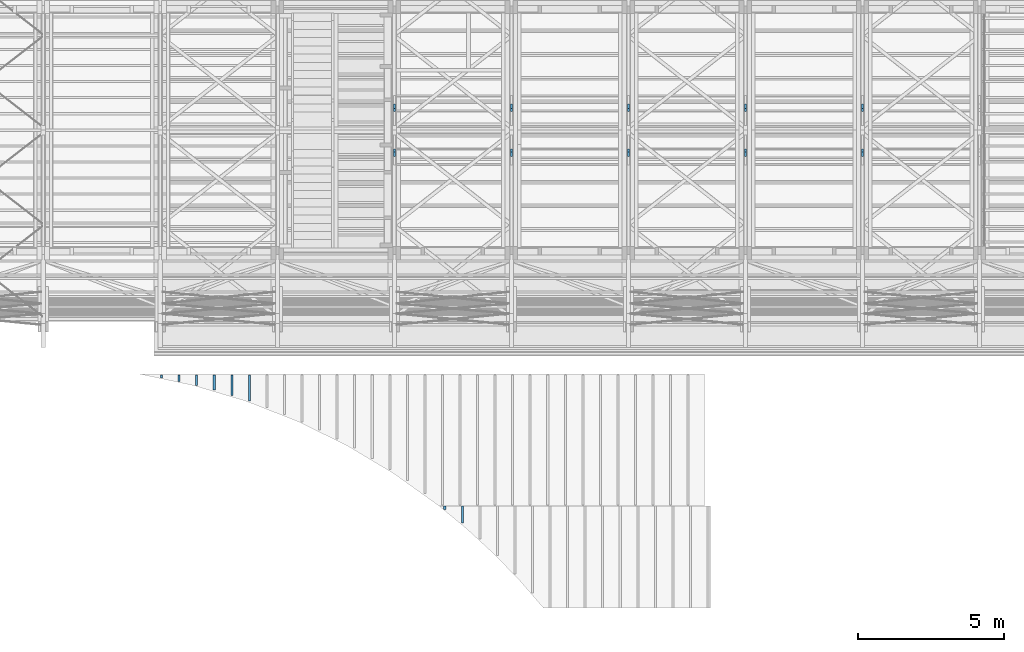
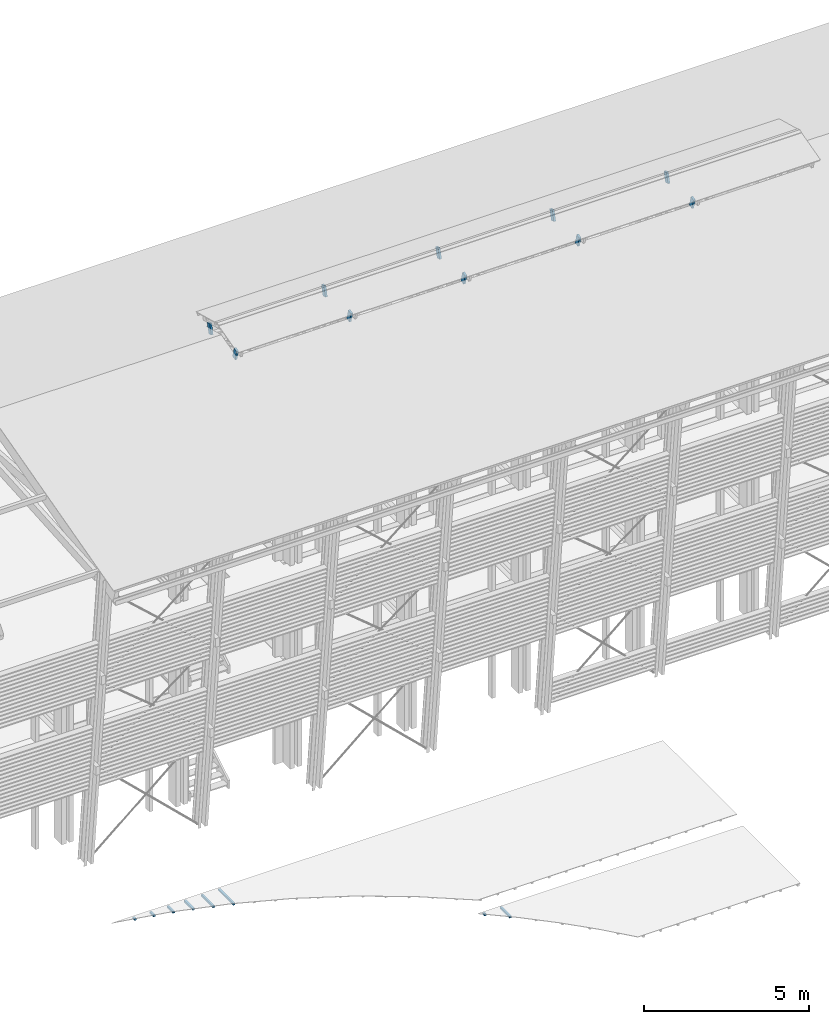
# One storey, part 29 of 48: 18 beams.
"""IFC2X3 building model written with IfcOpenShell, lengths in metres."""

from ifc_helpers import new_model, si_unit, direction, frame, origin_with_axes, place, context, subcontext, project, spatial, faceted_brep, material, element, save


model = new_model("IFC2X3")

# Units and contexts
model_context = context("Model", 3, precision=1e-06, world=origin_with_axes(), true_north=direction((0.0, 1.0, 0.0)))
body_context = subcontext(model_context, "Body", "Model", "MODEL_VIEW")
ifc_project = project(units=[si_unit("LENGTHUNIT", "METRE"), si_unit("AREAUNIT", "SQUARE_METRE"), si_unit("VOLUMEUNIT", "CUBIC_METRE"), si_unit("PLANEANGLEUNIT", "RADIAN")], contexts=[model_context])

# Site, building, storey
site_placement = place(None, origin_with_axes())
site = spatial("IfcSite", under=ifc_project, at=site_placement, CompositionType="ELEMENT")
building_placement = place(site_placement, origin_with_axes())
building = spatial("IfcBuilding", under=site, at=building_placement, Name="Building 1", CompositionType="ELEMENT")
storey_placement = place(building_placement, origin_with_axes())
storey = spatial("IfcBuildingStorey", under=building, at=storey_placement, Name="Storey 1", CompositionType="ELEMENT", Elevation=0.0)

# Beams
ifc_material = material(Name="GL28h")
beam_1_placement = place(storey_placement, frame((53.4897437, -188.4867808, 13.2181055), z_axis=(0.0, -0.9659258, 0.2588191), x_axis=(0.0, 0.2588191, 0.9659258)))
element("IfcBeam", 1, at=beam_1_placement, inside=storey, material=ifc_material, Name="potelet", context=body_context, shape_type="Brep", body=[
    faceted_brep([(0.38, -0.035, 0.084), (0.38, 0.035, 0.084), (0.0, 0.035, 0.084), (0.0, -0.035, 0.084), (0.38, 0.035, -0.084), (0.0, 0.035, -0.084), (0.38, -0.035, -0.084), (0.0, -0.035, -0.084)], [[[0, 1, 2, 3]], [[1, 4, 5, 2]], [[4, 6, 7, 5]], [[6, 0, 3, 7]], [[1, 0, 6, 4]], [[7, 3, 2, 5]]]),
])
beam_2_placement = place(storey_placement, frame((47.2127827, -202.1643722, -0.606), z_axis=(-1.0, 0.0, 0.0), x_axis=(0.0, 1.0, 0.0)))
element("IfcBeam", 2, at=beam_2_placement, inside=storey, material=ifc_material, Name="carrelet", context=body_context, shape_type="Brep", body=[
    faceted_brep([(0.1148058, -0.035, -0.035), (0.1148058, -0.035, 0.035), (0.0, -0.035, 0.035), (0.0, -0.035, -0.035), (0.1148058, 0.035, 0.035), (0.0, 0.035, 0.035), (0.1148058, 0.035, -0.035), (0.0, 0.035, -0.035)], [[[0, 1, 2, 3]], [[1, 4, 5, 2]], [[4, 6, 7, 5]], [[6, 0, 3, 7]], [[1, 0, 6, 4]], [[7, 3, 2, 5]]]),
])
beam_3_placement = place(storey_placement, frame((37.5347007, -197.6764556, -0.106), z_axis=(-1.0, 0.0, 0.0), x_axis=(0.0, 1.0, 0.0)))
element("IfcBeam", 3, at=beam_3_placement, inside=storey, material=ifc_material, Name="carrelet", context=body_context, shape_type="Brep", body=[
    faceted_brep([(0.1090353, -0.035, -0.035), (0.1090353, -0.035, 0.035), (0.0, -0.035, 0.035), (0.0, -0.035, -0.035), (0.1090353, 0.035, 0.035), (0.0, 0.035, 0.035), (0.1090353, 0.035, -0.035), (0.0, 0.035, -0.035)], [[[0, 1, 2, 3]], [[1, 4, 5, 2]], [[4, 6, 7, 5]], [[6, 0, 3, 7]], [[1, 0, 6, 4]], [[7, 3, 2, 5]]]),
])
beam_4_placement = place(storey_placement, frame((38.1347007, -197.7945199, -0.106), z_axis=(-1.0, 0.0, 0.0), x_axis=(0.0, 1.0, 0.0)))
element("IfcBeam", 4, at=beam_4_placement, inside=storey, material=ifc_material, Name="carrelet", context=body_context, shape_type="Brep", body=[
    faceted_brep([(0.2270995, -0.035, -0.035), (0.2270995, -0.035, 0.035), (0.0, -0.035, 0.035), (0.0, -0.035, -0.035), (0.2270995, 0.035, 0.035), (0.0, 0.035, 0.035), (0.2270995, 0.035, -0.035), (0.0, 0.035, -0.035)], [[[0, 1, 2, 3]], [[1, 4, 5, 2]], [[4, 6, 7, 5]], [[6, 0, 3, 7]], [[1, 0, 6, 4]], [[7, 3, 2, 5]]]),
])
beam_5_placement = place(storey_placement, frame((39.9347007, -198.2773642, -0.106), z_axis=(-1.0, 0.0, 0.0), x_axis=(0.0, 1.0, 0.0)))
element("IfcBeam", 5, at=beam_5_placement, inside=storey, material=ifc_material, Name="carrelet", context=body_context, shape_type="Brep", body=[
    faceted_brep([(0.7099438, -0.035, -0.035), (0.7099438, -0.035, 0.035), (0.0, -0.035, 0.035), (0.0, -0.035, -0.035), (0.7099438, 0.035, 0.035), (0.0, 0.035, 0.035), (0.7099438, 0.035, -0.035), (0.0, 0.035, -0.035)], [[[0, 1, 2, 3]], [[1, 4, 5, 2]], [[4, 6, 7, 5]], [[6, 0, 3, 7]], [[1, 0, 6, 4]], [[7, 3, 2, 5]]]),
])
beam_6_placement = place(storey_placement, frame((40.5347007, -198.47265, -0.106), z_axis=(-1.0, 0.0, 0.0), x_axis=(0.0, 1.0, 0.0)))
element("IfcBeam", 6, at=beam_6_placement, inside=storey, material=ifc_material, Name="carrelet", context=body_context, shape_type="Brep", body=[
    faceted_brep([(0.9052296, -0.035, -0.035), (0.9052296, -0.035, 0.035), (0.0, -0.035, 0.035), (0.0, -0.035, -0.035), (0.9052296, 0.035, 0.035), (0.0, 0.035, 0.035), (0.9052296, 0.035, -0.035), (0.0, 0.035, -0.035)], [[[0, 1, 2, 3]], [[1, 4, 5, 2]], [[4, 6, 7, 5]], [[6, 0, 3, 7]], [[1, 0, 6, 4]], [[7, 3, 2, 5]]]),
])
beam_7_placement = place(storey_placement, frame((39.3347007, -198.0876579, -0.106), z_axis=(-1.0, 0.0, 0.0), x_axis=(0.0, 1.0, 0.0)))
element("IfcBeam", 7, at=beam_7_placement, inside=storey, material=ifc_material, Name="carrelet", context=body_context, shape_type="Brep", body=[
    faceted_brep([(0.5202375, -0.035, -0.035), (0.5202375, -0.035, 0.035), (0.0, -0.035, 0.035), (0.0, -0.035, -0.035), (0.5202375, 0.035, 0.035), (0.0, 0.035, 0.035), (0.5202375, 0.035, -0.035), (0.0, 0.035, -0.035)], [[[0, 1, 2, 3]], [[1, 4, 5, 2]], [[4, 6, 7, 5]], [[6, 0, 3, 7]], [[1, 0, 6, 4]], [[7, 3, 2, 5]]]),
])
beam_8_placement = place(storey_placement, frame((38.7347007, -197.9273422, -0.106), z_axis=(-1.0, 0.0, 0.0), x_axis=(0.0, 1.0, 0.0)))
element("IfcBeam", 8, at=beam_8_placement, inside=storey, material=ifc_material, Name="carrelet", context=body_context, shape_type="Brep", body=[
    faceted_brep([(0.3599218, -0.035, -0.035), (0.3599218, -0.035, 0.035), (0.0, -0.035, 0.035), (0.0, -0.035, -0.035), (0.3599218, 0.035, 0.035), (0.0, 0.035, 0.035), (0.3599218, 0.035, -0.035), (0.0, 0.035, -0.035)], [[[0, 1, 2, 3]], [[1, 4, 5, 2]], [[4, 6, 7, 5]], [[6, 0, 3, 7]], [[1, 0, 6, 4]], [[7, 3, 2, 5]]]),
])
beam_9_placement = place(storey_placement, frame((47.8127827, -202.6398507, -0.606), z_axis=(-1.0, 0.0, 0.0), x_axis=(0.0, 1.0, 0.0)))
element("IfcBeam", 9, at=beam_9_placement, inside=storey, material=ifc_material, Name="carrelet", context=body_context, shape_type="Brep", body=[
    faceted_brep([(0.5934304, -0.035, -0.035), (0.5934304, -0.035, 0.035), (0.0, -0.035, 0.035), (0.0, -0.035, -0.035), (0.5934304, 0.035, 0.035), (0.0, 0.035, 0.035), (0.5934304, 0.035, -0.035), (0.0, 0.035, -0.035)], [[[0, 1, 2, 3]], [[1, 4, 5, 2]], [[4, 6, 7, 5]], [[6, 0, 3, 7]], [[1, 0, 6, 4]], [[7, 3, 2, 5]]]),
])
for number, where, z_axis, x_axis in (
    (10, (61.4897437, -188.4867808, 13.2181055), (0.0, -0.9659258, 0.2588191), (0.0, 0.2588191, 0.9659258)),
    (11, (61.4897437, -189.9293315, 13.2180038), (0.0, 0.9659258, 0.2588191), (0.0, -0.2588191, 0.9659258)),
    (12, (57.4897437, -189.9293315, 13.2180038), (0.0, 0.9659258, 0.2588191), (0.0, -0.2588191, 0.9659258)),
    (13, (49.4897437, -189.9293315, 13.2180038), (0.0, 0.9659258, 0.2588191), (0.0, -0.2588191, 0.9659258)),
    (14, (45.4897437, -189.9293315, 13.2180038), (0.0, 0.9659258, 0.2588191), (0.0, -0.2588191, 0.9659258)),
    (15, (45.4897437, -188.4867808, 13.2181055), (0.0, -0.9659258, 0.2588191), (0.0, 0.2588191, 0.9659258)),
    (16, (49.4897437, -188.4867808, 13.2181055), (0.0, -0.9659258, 0.2588191), (0.0, 0.2588191, 0.9659258)),
    (17, (53.4897437, -189.9293315, 13.2180038), (0.0, 0.9659258, 0.2588191), (0.0, -0.2588191, 0.9659258)),
    (18, (57.4897437, -188.4867808, 13.2181055), (0.0, -0.9659258, 0.2588191), (0.0, 0.2588191, 0.9659258)),
):
    element("IfcBeam", number, at=place(storey_placement, frame(where, z_axis=z_axis, x_axis=x_axis)), inside=storey, material=ifc_material, Name="potelet", context=body_context, shape_type="Brep", body=[
        faceted_brep([(0.38, -0.035, 0.084), (0.38, 0.035, 0.084), (0.0, 0.035, 0.084), (0.0, -0.035, 0.084), (0.38, 0.035, -0.084), (0.0, 0.035, -0.084), (0.38, -0.035, -0.084), (0.0, -0.035, -0.084)], [[[0, 1, 2, 3]], [[1, 4, 5, 2]], [[4, 6, 7, 5]], [[6, 0, 3, 7]], [[1, 0, 6, 4]], [[7, 3, 2, 5]]]),
    ])

save(model, "model.ifc")
